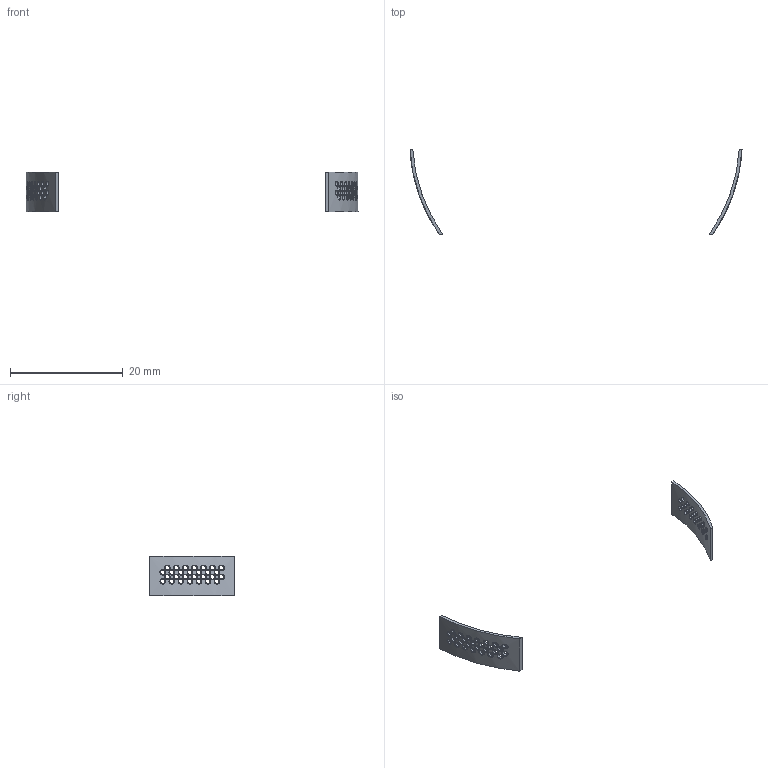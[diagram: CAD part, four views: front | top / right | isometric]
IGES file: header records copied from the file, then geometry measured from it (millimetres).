
Start section:  PTC IGES file: id-gtc-speaker-deco_prt.igs
Global section: file name: id-gtc-speaker-deco_prt.igs; native system: Pro/ENGINEER by Parametric Technology Corporation; preprocessor: 2006170; author: GRA; organization: Unknown; date: 20080630.105157; units: millimetre
Bounding box: 58.89 x 15 x 7 mm (x, y, z)
Surface area: 506.5 mm2 (no closed solid volume)
Topology: 0 solids, 0 shells, 236 faces, 1168 edges, 1168 vertices
Faces by surface type: bspline 120, revolution 116
